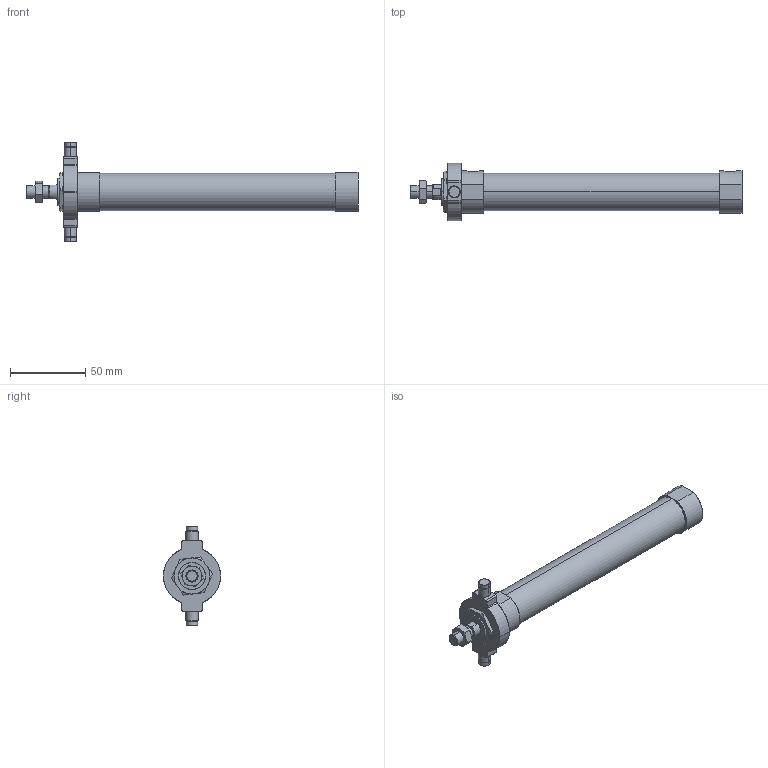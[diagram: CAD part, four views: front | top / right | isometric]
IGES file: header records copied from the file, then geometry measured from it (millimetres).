
Start section: SolidWorks IGES file using analytic representation for surfaces
Global section: file name: C:\Users\Toshiba\Desktop\JGND2-20-125-T.IGS; native system: SolidWorks 2014; preprocessor: SolidWorks 2014; author: Toshiba; date: 160804.103240; units: millimetre
Bounding box: 221 x 38 x 66 mm (x, y, z)
Surface area: 24091.2 mm2 (no closed solid volume)
Topology: 0 solids, 0 shells, 123 faces, 1972 edges, 1972 vertices
Faces by surface type: bspline 68, revolution 55
